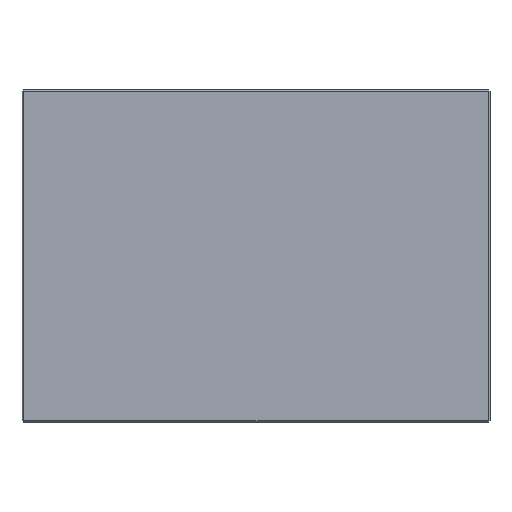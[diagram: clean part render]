
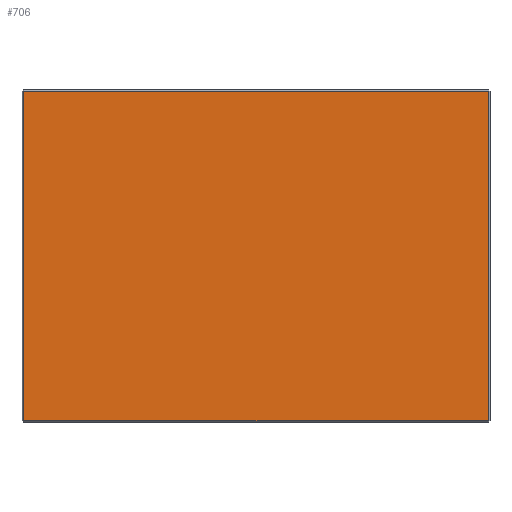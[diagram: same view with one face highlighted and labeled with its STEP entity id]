
A CAD part, top view. The second image highlights one B-rep face of the part: STEP entity #706.
In plain terms, the highlighted planar face has unit normal (0, 0, 1).
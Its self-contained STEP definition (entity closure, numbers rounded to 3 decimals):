
#126 = PLANE('',#127);
#127 = AXIS2_PLACEMENT_3D('',#128,#129,#130);
#128 = CARTESIAN_POINT('',(-53.3,-38.1,14.));
#129 = DIRECTION('',(0.707,0.,-0.707));
#130 = DIRECTION('',(0.,1.,0.));
#309 = VERTEX_POINT('',#310);
#310 = CARTESIAN_POINT('',(-53.1,-37.7,14.2));
#333 = VERTEX_POINT('',#334);
#334 = CARTESIAN_POINT('',(-53.1,37.7,14.2));
#360 = EDGE_CURVE('',#309,#333,#361,.T.);
#361 = SURFACE_CURVE('',#362,(#366,#373),.PCURVE_S1.);
#362 = LINE('',#363,#364);
#363 = CARTESIAN_POINT('',(-53.1,-38.1,14.2));
#364 = VECTOR('',#365,1.);
#365 = DIRECTION('',(0.,1.,0.));
#366 = PCURVE('',#126,#367);
#367 = DEFINITIONAL_REPRESENTATION('',(#368),#372);
#368 = LINE('',#369,#370);
#369 = CARTESIAN_POINT('',(0.,0.283));
#370 = VECTOR('',#371,1.);
#371 = DIRECTION('',(1.,0.));
#372 = ( GEOMETRIC_REPRESENTATION_CONTEXT(2) 
PARAMETRIC_REPRESENTATION_CONTEXT() REPRESENTATION_CONTEXT('2D SPACE',''
  ) );
#373 = PCURVE('',#374,#379);
#374 = PLANE('',#375);
#375 = AXIS2_PLACEMENT_3D('',#376,#377,#378);
#376 = CARTESIAN_POINT('',(-53.5,-38.1,14.2));
#377 = DIRECTION('',(0.,0.,1.));
#378 = DIRECTION('',(1.,0.,0.));
#379 = DEFINITIONAL_REPRESENTATION('',(#380),#384);
#380 = LINE('',#381,#382);
#381 = CARTESIAN_POINT('',(0.4,0.));
#382 = VECTOR('',#383,1.);
#383 = DIRECTION('',(0.,1.));
#384 = ( GEOMETRIC_REPRESENTATION_CONTEXT(2) 
PARAMETRIC_REPRESENTATION_CONTEXT() REPRESENTATION_CONTEXT('2D SPACE',''
  ) );
#511 = PLANE('',#512);
#512 = AXIS2_PLACEMENT_3D('',#513,#514,#515);
#513 = CARTESIAN_POINT('',(-53.5,-37.9,14.));
#514 = DIRECTION('',(0.,0.707,-0.707));
#515 = DIRECTION('',(-1.,-0.,-0.));
#706 = ADVANCED_FACE('',(#707),#374,.T.);
#707 = FACE_BOUND('',#708,.T.);
#708 = EDGE_LOOP('',(#709,#710,#733,#761));
#709 = ORIENTED_EDGE('',*,*,#360,.F.);
#710 = ORIENTED_EDGE('',*,*,#711,.T.);
#711 = EDGE_CURVE('',#309,#712,#714,.T.);
#712 = VERTEX_POINT('',#713);
#713 = CARTESIAN_POINT('',(53.1,-37.7,14.2));
#714 = SURFACE_CURVE('',#715,(#719,#726),.PCURVE_S1.);
#715 = LINE('',#716,#717);
#716 = CARTESIAN_POINT('',(-53.5,-37.7,14.2));
#717 = VECTOR('',#718,1.);
#718 = DIRECTION('',(1.,0.,0.));
#719 = PCURVE('',#374,#720);
#720 = DEFINITIONAL_REPRESENTATION('',(#721),#725);
#721 = LINE('',#722,#723);
#722 = CARTESIAN_POINT('',(0.,0.4));
#723 = VECTOR('',#724,1.);
#724 = DIRECTION('',(1.,0.));
#725 = ( GEOMETRIC_REPRESENTATION_CONTEXT(2) 
PARAMETRIC_REPRESENTATION_CONTEXT() REPRESENTATION_CONTEXT('2D SPACE',''
  ) );
#726 = PCURVE('',#511,#727);
#727 = DEFINITIONAL_REPRESENTATION('',(#728),#732);
#728 = LINE('',#729,#730);
#729 = CARTESIAN_POINT('',(-0.,0.283));
#730 = VECTOR('',#731,1.);
#731 = DIRECTION('',(-1.,0.));
#732 = ( GEOMETRIC_REPRESENTATION_CONTEXT(2) 
PARAMETRIC_REPRESENTATION_CONTEXT() REPRESENTATION_CONTEXT('2D SPACE',''
  ) );
#733 = ORIENTED_EDGE('',*,*,#734,.T.);
#734 = EDGE_CURVE('',#712,#735,#737,.T.);
#735 = VERTEX_POINT('',#736);
#736 = CARTESIAN_POINT('',(53.1,37.7,14.2));
#737 = SURFACE_CURVE('',#738,(#742,#749),.PCURVE_S1.);
#738 = LINE('',#739,#740);
#739 = CARTESIAN_POINT('',(53.1,-38.1,14.2));
#740 = VECTOR('',#741,1.);
#741 = DIRECTION('',(0.,1.,0.));
#742 = PCURVE('',#374,#743);
#743 = DEFINITIONAL_REPRESENTATION('',(#744),#748);
#744 = LINE('',#745,#746);
#745 = CARTESIAN_POINT('',(106.6,0.));
#746 = VECTOR('',#747,1.);
#747 = DIRECTION('',(0.,1.));
#748 = ( GEOMETRIC_REPRESENTATION_CONTEXT(2) 
PARAMETRIC_REPRESENTATION_CONTEXT() REPRESENTATION_CONTEXT('2D SPACE',''
  ) );
#749 = PCURVE('',#750,#755);
#750 = PLANE('',#751);
#751 = AXIS2_PLACEMENT_3D('',#752,#753,#754);
#752 = CARTESIAN_POINT('',(53.3,-38.1,14.));
#753 = DIRECTION('',(0.707,0.,0.707));
#754 = DIRECTION('',(-0.,1.,0.));
#755 = DEFINITIONAL_REPRESENTATION('',(#756),#760);
#756 = LINE('',#757,#758);
#757 = CARTESIAN_POINT('',(0.,0.283));
#758 = VECTOR('',#759,1.);
#759 = DIRECTION('',(1.,0.));
#760 = ( GEOMETRIC_REPRESENTATION_CONTEXT(2) 
PARAMETRIC_REPRESENTATION_CONTEXT() REPRESENTATION_CONTEXT('2D SPACE',''
  ) );
#761 = ORIENTED_EDGE('',*,*,#762,.F.);
#762 = EDGE_CURVE('',#333,#735,#763,.T.);
#763 = SURFACE_CURVE('',#764,(#768,#775),.PCURVE_S1.);
#764 = LINE('',#765,#766);
#765 = CARTESIAN_POINT('',(-53.5,37.7,14.2));
#766 = VECTOR('',#767,1.);
#767 = DIRECTION('',(1.,0.,0.));
#768 = PCURVE('',#374,#769);
#769 = DEFINITIONAL_REPRESENTATION('',(#770),#774);
#770 = LINE('',#771,#772);
#771 = CARTESIAN_POINT('',(0.,75.8));
#772 = VECTOR('',#773,1.);
#773 = DIRECTION('',(1.,0.));
#774 = ( GEOMETRIC_REPRESENTATION_CONTEXT(2) 
PARAMETRIC_REPRESENTATION_CONTEXT() REPRESENTATION_CONTEXT('2D SPACE',''
  ) );
#775 = PCURVE('',#776,#781);
#776 = PLANE('',#777);
#777 = AXIS2_PLACEMENT_3D('',#778,#779,#780);
#778 = CARTESIAN_POINT('',(-53.5,37.9,14.));
#779 = DIRECTION('',(0.,0.707,0.707));
#780 = DIRECTION('',(-1.,-0.,0.));
#781 = DEFINITIONAL_REPRESENTATION('',(#782),#786);
#782 = LINE('',#783,#784);
#783 = CARTESIAN_POINT('',(-0.,0.283));
#784 = VECTOR('',#785,1.);
#785 = DIRECTION('',(-1.,0.));
#786 = ( GEOMETRIC_REPRESENTATION_CONTEXT(2) 
PARAMETRIC_REPRESENTATION_CONTEXT() REPRESENTATION_CONTEXT('2D SPACE',''
  ) );
